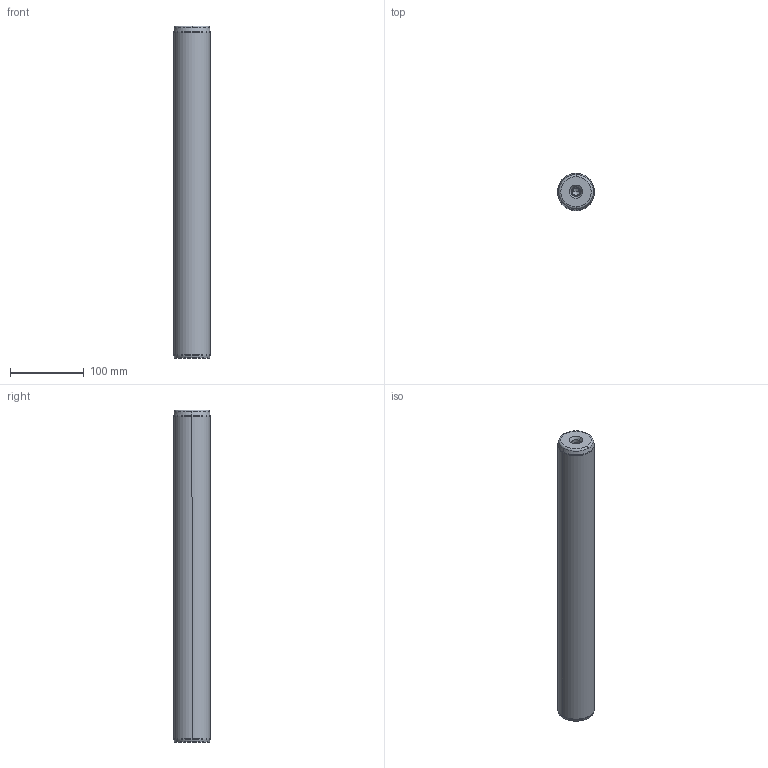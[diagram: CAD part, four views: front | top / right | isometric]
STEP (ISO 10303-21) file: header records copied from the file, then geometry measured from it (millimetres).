
FILE_DESCRIPTION((''),'2;1');
FILE_NAME('P10_050_450.stp','2008-12-23T16:15:11',(''),(''),'Mechanical Desktop 2009','Mechanical Desktop 2009',', , ');
FILE_SCHEMA(('CONFIG_CONTROL_DESIGN'));
Length unit declared in the file: millimetre
Products named in the file (5): Product; ProductAA; blmdl1; ProductA; blmdl1A
Assembly tree (2 placements, depth 3):
  Product
    ProductAA
      blmdl1
  ProductA
  blmdl1A
Bounding box: 50 x 50 x 450 mm (x, y, z)
Volume: 877935.6 mm3; surface area: 75249 mm2
Topology: 1 solids, 1 shells, 26 faces, 66 edges, 41 vertices
Faces by surface type: cone 10, torus 8, cylinder 6, plane 2
Entity records: 1012 total; most frequent: DIRECTION 170, CARTESIAN_POINT 134, ORIENTED_EDGE 128, AXIS2_PLACEMENT_3D 77, EDGE_CURVE 64, CIRCLE 48, VERTEX_POINT 41, EDGE_LOOP 27
